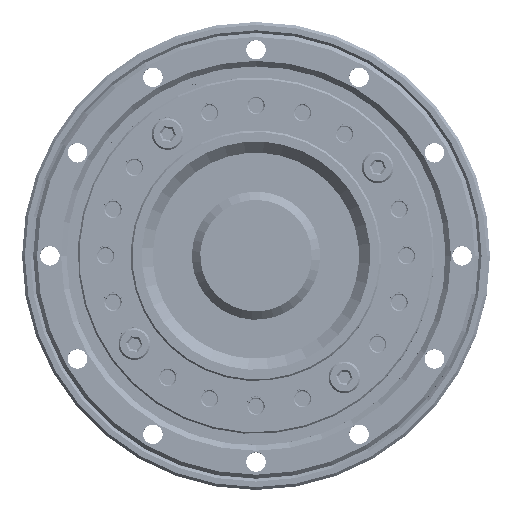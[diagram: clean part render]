
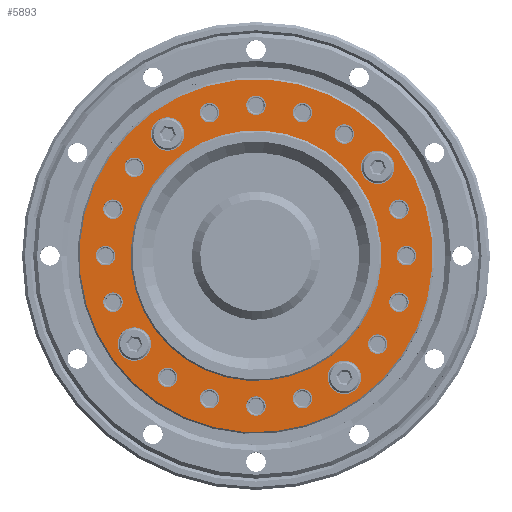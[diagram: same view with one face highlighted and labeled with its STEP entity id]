
A CAD part, top view. The second image highlights one B-rep face of the part: STEP entity #5893.
In plain terms, the highlighted planar face has unit normal (0, 0, 1) as drawn and (0, 0, -1) by its records, which use the part's own axes.
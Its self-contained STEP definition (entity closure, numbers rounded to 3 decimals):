
#5242=PLANE('',#17775);
#5893=ADVANCED_FACE('',(#7225,#7226,#7227,#7228,#7229,#7230,#7231,#7232,
#7233,#7234,#7235,#7236,#7237,#7238,#7239,#7240,#7241,#7242,#7243,#7244,
#7245,#7246),#5242,.F.);
#7225=FACE_BOUND('',#8698,.T.);
#7226=FACE_BOUND('',#8699,.T.);
#7227=FACE_BOUND('',#8700,.T.);
#7228=FACE_BOUND('',#8701,.T.);
#7229=FACE_BOUND('',#8702,.T.);
#7230=FACE_BOUND('',#8703,.T.);
#7231=FACE_BOUND('',#8704,.T.);
#7232=FACE_BOUND('',#8705,.T.);
#7233=FACE_BOUND('',#8706,.T.);
#7234=FACE_BOUND('',#8707,.T.);
#7235=FACE_BOUND('',#8708,.T.);
#7236=FACE_BOUND('',#8709,.T.);
#7237=FACE_BOUND('',#8710,.T.);
#7238=FACE_BOUND('',#8711,.T.);
#7239=FACE_BOUND('',#8712,.T.);
#7240=FACE_BOUND('',#8713,.T.);
#7241=FACE_BOUND('',#8714,.T.);
#7242=FACE_BOUND('',#8715,.T.);
#7243=FACE_BOUND('',#8716,.T.);
#7244=FACE_BOUND('',#8717,.T.);
#7245=FACE_BOUND('',#8718,.T.);
#7246=FACE_BOUND('',#8719,.T.);
#8698=EDGE_LOOP('',(#11444));
#8699=EDGE_LOOP('',(#11445));
#8700=EDGE_LOOP('',(#11446));
#8701=EDGE_LOOP('',(#11447));
#8702=EDGE_LOOP('',(#11448));
#8703=EDGE_LOOP('',(#11449));
#8704=EDGE_LOOP('',(#11450));
#8705=EDGE_LOOP('',(#11451));
#8706=EDGE_LOOP('',(#11452));
#8707=EDGE_LOOP('',(#11453));
#8708=EDGE_LOOP('',(#11454));
#8709=EDGE_LOOP('',(#11455));
#8710=EDGE_LOOP('',(#11456));
#8711=EDGE_LOOP('',(#11457));
#8712=EDGE_LOOP('',(#11458));
#8713=EDGE_LOOP('',(#11459));
#8714=EDGE_LOOP('',(#11460));
#8715=EDGE_LOOP('',(#11461));
#8716=EDGE_LOOP('',(#11462));
#8717=EDGE_LOOP('',(#11463));
#8718=EDGE_LOOP('',(#11464));
#8719=EDGE_LOOP('',(#11465));
#11444=ORIENTED_EDGE('',*,*,#15518,.T.);
#11445=ORIENTED_EDGE('',*,*,#15519,.F.);
#11446=ORIENTED_EDGE('',*,*,#15520,.F.);
#11447=ORIENTED_EDGE('',*,*,#15521,.F.);
#11448=ORIENTED_EDGE('',*,*,#15522,.F.);
#11449=ORIENTED_EDGE('',*,*,#15523,.F.);
#11450=ORIENTED_EDGE('',*,*,#15524,.F.);
#11451=ORIENTED_EDGE('',*,*,#15525,.F.);
#11452=ORIENTED_EDGE('',*,*,#15526,.F.);
#11453=ORIENTED_EDGE('',*,*,#15527,.F.);
#11454=ORIENTED_EDGE('',*,*,#15528,.F.);
#11455=ORIENTED_EDGE('',*,*,#15529,.F.);
#11456=ORIENTED_EDGE('',*,*,#15530,.F.);
#11457=ORIENTED_EDGE('',*,*,#15531,.F.);
#11458=ORIENTED_EDGE('',*,*,#15532,.F.);
#11459=ORIENTED_EDGE('',*,*,#15533,.F.);
#11460=ORIENTED_EDGE('',*,*,#15534,.F.);
#11461=ORIENTED_EDGE('',*,*,#15535,.F.);
#11462=ORIENTED_EDGE('',*,*,#15536,.F.);
#11463=ORIENTED_EDGE('',*,*,#15537,.F.);
#11464=ORIENTED_EDGE('',*,*,#15538,.F.);
#11465=ORIENTED_EDGE('',*,*,#15511,.T.);
#13850=VERTEX_POINT('',#118808);
#13857=VERTEX_POINT('',#118826);
#13858=VERTEX_POINT('',#118828);
#13859=VERTEX_POINT('',#118830);
#13860=VERTEX_POINT('',#118832);
#13861=VERTEX_POINT('',#118834);
#13862=VERTEX_POINT('',#118836);
#13863=VERTEX_POINT('',#118838);
#13864=VERTEX_POINT('',#118840);
#13865=VERTEX_POINT('',#118842);
#13866=VERTEX_POINT('',#118844);
#13867=VERTEX_POINT('',#118846);
#13868=VERTEX_POINT('',#118848);
#13869=VERTEX_POINT('',#118850);
#13870=VERTEX_POINT('',#118852);
#13871=VERTEX_POINT('',#118854);
#13872=VERTEX_POINT('',#118856);
#13873=VERTEX_POINT('',#118858);
#13874=VERTEX_POINT('',#118860);
#13875=VERTEX_POINT('',#118862);
#13876=VERTEX_POINT('',#118864);
#13877=VERTEX_POINT('',#118866);
#15511=EDGE_CURVE('',#13850,#13850,#16684,.T.);
#15518=EDGE_CURVE('',#13857,#13857,#16691,.T.);
#15519=EDGE_CURVE('',#13858,#13858,#16692,.T.);
#15520=EDGE_CURVE('',#13859,#13859,#16693,.T.);
#15521=EDGE_CURVE('',#13860,#13860,#16694,.T.);
#15522=EDGE_CURVE('',#13861,#13861,#16695,.T.);
#15523=EDGE_CURVE('',#13862,#13862,#16696,.T.);
#15524=EDGE_CURVE('',#13863,#13863,#16697,.T.);
#15525=EDGE_CURVE('',#13864,#13864,#16698,.T.);
#15526=EDGE_CURVE('',#13865,#13865,#16699,.T.);
#15527=EDGE_CURVE('',#13866,#13866,#16700,.T.);
#15528=EDGE_CURVE('',#13867,#13867,#16701,.T.);
#15529=EDGE_CURVE('',#13868,#13868,#16702,.T.);
#15530=EDGE_CURVE('',#13869,#13869,#16703,.T.);
#15531=EDGE_CURVE('',#13870,#13870,#16704,.T.);
#15532=EDGE_CURVE('',#13871,#13871,#16705,.T.);
#15533=EDGE_CURVE('',#13872,#13872,#16706,.T.);
#15534=EDGE_CURVE('',#13873,#13873,#16707,.T.);
#15535=EDGE_CURVE('',#13874,#13874,#16708,.T.);
#15536=EDGE_CURVE('',#13875,#13875,#16709,.T.);
#15537=EDGE_CURVE('',#13876,#13876,#16710,.T.);
#15538=EDGE_CURVE('',#13877,#13877,#16711,.T.);
#16684=CIRCLE('',#17743,22.5);
#16691=CIRCLE('',#17754,31.7);
#16692=CIRCLE('',#17755,3.);
#16693=CIRCLE('',#17756,3.);
#16694=CIRCLE('',#17757,3.);
#16695=CIRCLE('',#17758,3.);
#16696=CIRCLE('',#17759,1.75);
#16697=CIRCLE('',#17760,1.75);
#16698=CIRCLE('',#17761,1.75);
#16699=CIRCLE('',#17762,1.75);
#16700=CIRCLE('',#17763,1.75);
#16701=CIRCLE('',#17764,1.75);
#16702=CIRCLE('',#17765,1.75);
#16703=CIRCLE('',#17766,1.75);
#16704=CIRCLE('',#17767,1.75);
#16705=CIRCLE('',#17768,1.75);
#16706=CIRCLE('',#17769,1.75);
#16707=CIRCLE('',#17770,1.75);
#16708=CIRCLE('',#17771,1.75);
#16709=CIRCLE('',#17772,1.75);
#16710=CIRCLE('',#17773,1.75);
#16711=CIRCLE('',#17774,1.75);
#17743=AXIS2_PLACEMENT_3D('',#118807,#20226,#20227);
#17754=AXIS2_PLACEMENT_3D('',#118825,#20248,#20249);
#17755=AXIS2_PLACEMENT_3D('',#118827,#20250,#20251);
#17756=AXIS2_PLACEMENT_3D('',#118829,#20252,#20253);
#17757=AXIS2_PLACEMENT_3D('',#118831,#20254,#20255);
#17758=AXIS2_PLACEMENT_3D('',#118833,#20256,#20257);
#17759=AXIS2_PLACEMENT_3D('',#118835,#20258,#20259);
#17760=AXIS2_PLACEMENT_3D('',#118837,#20260,#20261);
#17761=AXIS2_PLACEMENT_3D('',#118839,#20262,#20263);
#17762=AXIS2_PLACEMENT_3D('',#118841,#20264,#20265);
#17763=AXIS2_PLACEMENT_3D('',#118843,#20266,#20267);
#17764=AXIS2_PLACEMENT_3D('',#118845,#20268,#20269);
#17765=AXIS2_PLACEMENT_3D('',#118847,#20270,#20271);
#17766=AXIS2_PLACEMENT_3D('',#118849,#20272,#20273);
#17767=AXIS2_PLACEMENT_3D('',#118851,#20274,#20275);
#17768=AXIS2_PLACEMENT_3D('',#118853,#20276,#20277);
#17769=AXIS2_PLACEMENT_3D('',#118855,#20278,#20279);
#17770=AXIS2_PLACEMENT_3D('',#118857,#20280,#20281);
#17771=AXIS2_PLACEMENT_3D('',#118859,#20282,#20283);
#17772=AXIS2_PLACEMENT_3D('',#118861,#20284,#20285);
#17773=AXIS2_PLACEMENT_3D('',#118863,#20286,#20287);
#17774=AXIS2_PLACEMENT_3D('',#118865,#20288,#20289);
#17775=AXIS2_PLACEMENT_3D('',#118867,#20290,#20291);
#20226=DIRECTION('',(0.,0.,1.));
#20227=DIRECTION('',(1.,0.,0.));
#20248=DIRECTION('',(0.,0.,-1.));
#20249=DIRECTION('',(1.,0.,0.));
#20250=DIRECTION('',(0.,0.,-1.));
#20251=DIRECTION('',(0.,1.,0.));
#20252=DIRECTION('',(0.,0.,-1.));
#20253=DIRECTION('',(-1.,0.,0.));
#20254=DIRECTION('',(0.,0.,-1.));
#20255=DIRECTION('',(0.,-1.,0.));
#20256=DIRECTION('',(0.,0.,-1.));
#20257=DIRECTION('',(1.,0.,0.));
#20258=DIRECTION('',(0.,0.,-1.));
#20259=DIRECTION('',(0.951,0.309,0.));
#20260=DIRECTION('',(0.,0.,-1.));
#20261=DIRECTION('',(0.809,0.588,0.));
#20262=DIRECTION('',(0.,0.,-1.));
#20263=DIRECTION('',(0.588,0.809,0.));
#20264=DIRECTION('',(0.,0.,-1.));
#20265=DIRECTION('',(0.309,0.951,0.));
#20266=DIRECTION('',(0.,0.,-1.));
#20267=DIRECTION('',(-0.309,0.951,0.));
#20268=DIRECTION('',(0.,0.,-1.));
#20269=DIRECTION('',(-0.588,0.809,0.));
#20270=DIRECTION('',(0.,0.,-1.));
#20271=DIRECTION('',(-0.809,0.588,0.));
#20272=DIRECTION('',(0.,0.,-1.));
#20273=DIRECTION('',(-0.951,0.309,0.));
#20274=DIRECTION('',(0.,0.,-1.));
#20275=DIRECTION('',(-0.951,-0.309,0.));
#20276=DIRECTION('',(0.,0.,-1.));
#20277=DIRECTION('',(-0.809,-0.588,0.));
#20278=DIRECTION('',(0.,0.,-1.));
#20279=DIRECTION('',(-0.588,-0.809,0.));
#20280=DIRECTION('',(0.,0.,-1.));
#20281=DIRECTION('',(-0.309,-0.951,0.));
#20282=DIRECTION('',(0.,0.,-1.));
#20283=DIRECTION('',(0.309,-0.951,0.));
#20284=DIRECTION('',(0.,0.,-1.));
#20285=DIRECTION('',(0.588,-0.809,0.));
#20286=DIRECTION('',(0.,0.,-1.));
#20287=DIRECTION('',(0.809,-0.588,0.));
#20288=DIRECTION('',(0.,0.,-1.));
#20289=DIRECTION('',(0.951,-0.309,0.));
#20290=DIRECTION('',(0.,0.,1.));
#20291=DIRECTION('',(1.,0.,0.));
#118807=CARTESIAN_POINT('',(0.,0.,3.));
#118808=CARTESIAN_POINT('',(22.5,0.,3.));
#118825=CARTESIAN_POINT('',(0.,0.,3.));
#118826=CARTESIAN_POINT('',(31.7,0.,3.));
#118827=CARTESIAN_POINT('',(27.,0.,3.));
#118828=CARTESIAN_POINT('',(27.,3.,3.));
#118829=CARTESIAN_POINT('',(0.,27.,3.));
#118830=CARTESIAN_POINT('',(-3.,27.,3.));
#118831=CARTESIAN_POINT('',(-27.,0.,3.));
#118832=CARTESIAN_POINT('',(-27.,-3.,3.));
#118833=CARTESIAN_POINT('',(0.,-27.,3.));
#118834=CARTESIAN_POINT('',(3.,-27.,3.));
#118835=CARTESIAN_POINT('',(-25.679,-8.343,3.));
#118836=CARTESIAN_POINT('',(-24.014,-7.803,3.));
#118837=CARTESIAN_POINT('',(-21.843,-15.87,3.));
#118838=CARTESIAN_POINT('',(-20.428,-14.842,3.));
#118839=CARTESIAN_POINT('',(-15.87,-21.843,3.));
#118840=CARTESIAN_POINT('',(-14.842,-20.428,3.));
#118841=CARTESIAN_POINT('',(-8.343,-25.679,3.));
#118842=CARTESIAN_POINT('',(-7.803,-24.014,3.));
#118843=CARTESIAN_POINT('',(8.343,-25.679,3.));
#118844=CARTESIAN_POINT('',(7.803,-24.014,3.));
#118845=CARTESIAN_POINT('',(15.87,-21.843,3.));
#118846=CARTESIAN_POINT('',(14.842,-20.428,3.));
#118847=CARTESIAN_POINT('',(21.843,-15.87,3.));
#118848=CARTESIAN_POINT('',(20.428,-14.842,3.));
#118849=CARTESIAN_POINT('',(25.679,-8.343,3.));
#118850=CARTESIAN_POINT('',(24.014,-7.803,3.));
#118851=CARTESIAN_POINT('',(25.679,8.343,3.));
#118852=CARTESIAN_POINT('',(24.014,7.803,3.));
#118853=CARTESIAN_POINT('',(21.843,15.87,3.));
#118854=CARTESIAN_POINT('',(20.428,14.842,3.));
#118855=CARTESIAN_POINT('',(15.87,21.843,3.));
#118856=CARTESIAN_POINT('',(14.842,20.428,3.));
#118857=CARTESIAN_POINT('',(8.343,25.679,3.));
#118858=CARTESIAN_POINT('',(7.803,24.014,3.));
#118859=CARTESIAN_POINT('',(-8.343,25.679,3.));
#118860=CARTESIAN_POINT('',(-7.803,24.014,3.));
#118861=CARTESIAN_POINT('',(-15.87,21.843,3.));
#118862=CARTESIAN_POINT('',(-14.842,20.428,3.));
#118863=CARTESIAN_POINT('',(-21.843,15.87,3.));
#118864=CARTESIAN_POINT('',(-20.428,14.842,3.));
#118865=CARTESIAN_POINT('',(-25.679,8.343,3.));
#118866=CARTESIAN_POINT('',(-24.014,7.803,3.));
#118867=CARTESIAN_POINT('',(0.,0.,3.));
